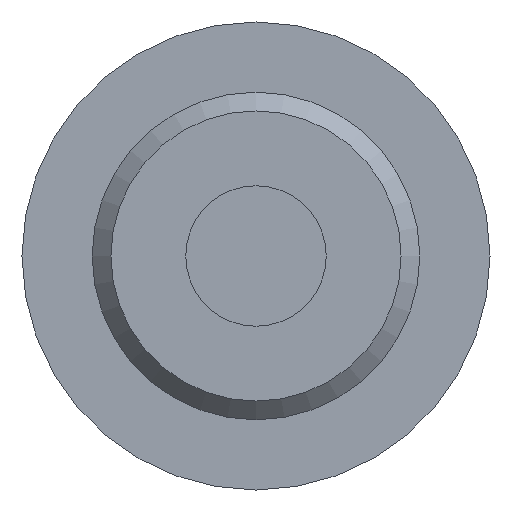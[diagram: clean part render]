
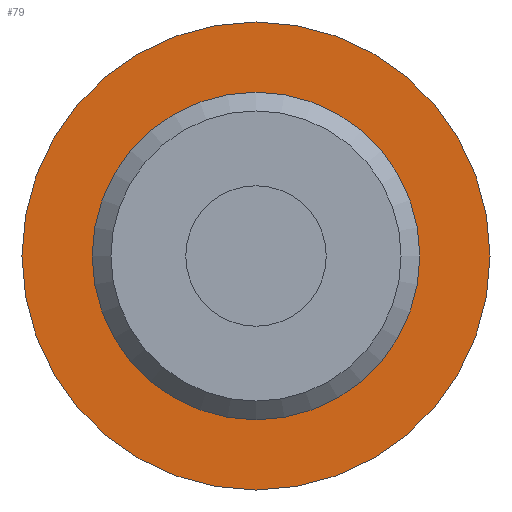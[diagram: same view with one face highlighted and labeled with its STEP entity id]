
A CAD part, front view. The second image highlights one B-rep face of the part: STEP entity #79.
In plain terms, the highlighted planar face has unit normal (0, -1, 0).
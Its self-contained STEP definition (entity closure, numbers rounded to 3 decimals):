
#79 = ADVANCED_FACE( '', ( #111, #112 ), #113, .F. );
#111 = FACE_BOUND( '', #175, .T. );
#112 = FACE_OUTER_BOUND( '', #176, .T. );
#113 = PLANE( '', #177 );
#175 = EDGE_LOOP( '', ( #256 ) );
#176 = EDGE_LOOP( '', ( #257 ) );
#177 = AXIS2_PLACEMENT_3D( '', #258, #259, #260 );
#256 = ORIENTED_EDGE( '', *, *, #416, .F. );
#257 = ORIENTED_EDGE( '', *, *, #414, .T. );
#258 = CARTESIAN_POINT( '', ( 10., 0., 0. ) );
#259 = DIRECTION( '', ( 0., 1., 0. ) );
#260 = DIRECTION( '', ( -1., 0., 0. ) );
#414 = EDGE_CURVE( '', #470, #470, #471, .T. );
#416 = EDGE_CURVE( '', #474, #474, #475, .T. );
#470 = VERTEX_POINT( '', #560 );
#471 = CIRCLE( '', #561, 10. );
#474 = VERTEX_POINT( '', #564 );
#475 = CIRCLE( '', #565, 7. );
#560 = CARTESIAN_POINT( '', ( 10., 0., 0. ) );
#561 = AXIS2_PLACEMENT_3D( '', #662, #663, #664 );
#564 = CARTESIAN_POINT( '', ( 7., 0., 0. ) );
#565 = AXIS2_PLACEMENT_3D( '', #668, #669, #670 );
#662 = CARTESIAN_POINT( '', ( 0., 0., 0. ) );
#663 = DIRECTION( '', ( 0., -1., 0. ) );
#664 = DIRECTION( '', ( 1., 0., 0. ) );
#668 = CARTESIAN_POINT( '', ( 0., 0., 0. ) );
#669 = DIRECTION( '', ( 0., -1., 0. ) );
#670 = DIRECTION( '', ( 1., 0., 0. ) );
